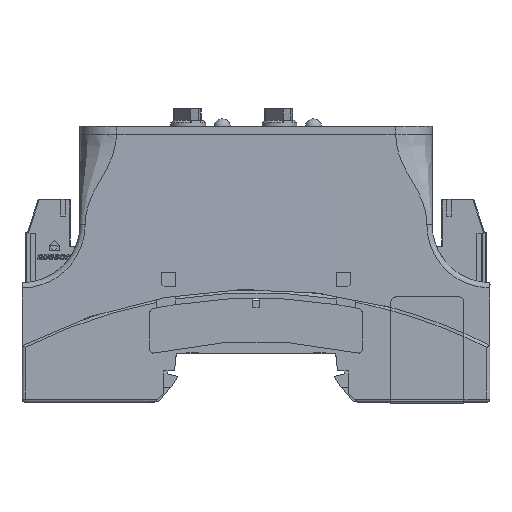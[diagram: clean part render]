
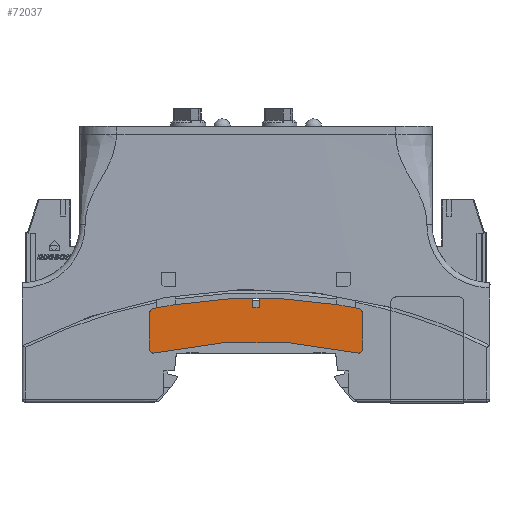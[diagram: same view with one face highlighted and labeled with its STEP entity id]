
A CAD part, left-side view. The second image highlights one B-rep face of the part: STEP entity #72037.
In plain terms, the highlighted planar face has unit normal (-1, 0, 0).
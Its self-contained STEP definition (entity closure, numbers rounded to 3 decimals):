
#942=CIRCLE('',#76028,90.);
#943=CIRCLE('',#76029,0.75);
#944=CIRCLE('',#76030,1.);
#945=CIRCLE('',#76031,98.35);
#946=CIRCLE('',#76032,98.35);
#947=CIRCLE('',#76033,98.35);
#948=CIRCLE('',#76034,98.35);
#949=CIRCLE('',#76035,98.35);
#950=CIRCLE('',#76036,98.35);
#951=CIRCLE('',#76037,1.);
#952=CIRCLE('',#76038,0.75);
#3902=FACE_OUTER_BOUND('',#7625,.T.);
#7625=EDGE_LOOP('',(#49933,#49934,#49935,#49936,#49937,#49938,#49939,#49940,
#49941,#49942,#49943,#49944,#49945,#49946,#49947,#49948));
#12965=LINE('',#107778,#21295);
#12966=LINE('',#107788,#21296);
#12967=LINE('',#107790,#21297);
#12968=LINE('',#107792,#21298);
#12969=LINE('',#107802,#21299);
#21295=VECTOR('',#84826,1.);
#21296=VECTOR('',#84835,1.);
#21297=VECTOR('',#84836,1.);
#21298=VECTOR('',#84837,1.);
#21299=VECTOR('',#84846,1.);
#29277=VERTEX_POINT('',#107772);
#29278=VERTEX_POINT('',#107773);
#29279=VERTEX_POINT('',#107775);
#29280=VERTEX_POINT('',#107777);
#29281=VERTEX_POINT('',#107779);
#29282=VERTEX_POINT('',#107781);
#29283=VERTEX_POINT('',#107783);
#29284=VERTEX_POINT('',#107785);
#29285=VERTEX_POINT('',#107787);
#29286=VERTEX_POINT('',#107789);
#29287=VERTEX_POINT('',#107791);
#29288=VERTEX_POINT('',#107793);
#29289=VERTEX_POINT('',#107795);
#29290=VERTEX_POINT('',#107797);
#29291=VERTEX_POINT('',#107799);
#29292=VERTEX_POINT('',#107801);
#37031=EDGE_CURVE('',#29277,#29278,#942,.T.);
#37032=EDGE_CURVE('',#29278,#29279,#943,.T.);
#37033=EDGE_CURVE('',#29279,#29280,#12965,.T.);
#37034=EDGE_CURVE('',#29280,#29281,#944,.T.);
#37035=EDGE_CURVE('',#29281,#29282,#945,.T.);
#37036=EDGE_CURVE('',#29283,#29282,#946,.T.);
#37037=EDGE_CURVE('',#29283,#29284,#947,.T.);
#37038=EDGE_CURVE('',#29284,#29285,#12966,.T.);
#37039=EDGE_CURVE('',#29285,#29286,#12967,.T.);
#37040=EDGE_CURVE('',#29286,#29287,#12968,.T.);
#37041=EDGE_CURVE('',#29287,#29288,#948,.T.);
#37042=EDGE_CURVE('',#29289,#29288,#949,.T.);
#37043=EDGE_CURVE('',#29289,#29290,#950,.T.);
#37044=EDGE_CURVE('',#29290,#29291,#951,.T.);
#37045=EDGE_CURVE('',#29291,#29292,#12969,.T.);
#37046=EDGE_CURVE('',#29292,#29277,#952,.T.);
#49933=ORIENTED_EDGE('',*,*,#37031,.T.);
#49934=ORIENTED_EDGE('',*,*,#37032,.T.);
#49935=ORIENTED_EDGE('',*,*,#37033,.T.);
#49936=ORIENTED_EDGE('',*,*,#37034,.T.);
#49937=ORIENTED_EDGE('',*,*,#37035,.T.);
#49938=ORIENTED_EDGE('',*,*,#37036,.F.);
#49939=ORIENTED_EDGE('',*,*,#37037,.T.);
#49940=ORIENTED_EDGE('',*,*,#37038,.T.);
#49941=ORIENTED_EDGE('',*,*,#37039,.T.);
#49942=ORIENTED_EDGE('',*,*,#37040,.T.);
#49943=ORIENTED_EDGE('',*,*,#37041,.T.);
#49944=ORIENTED_EDGE('',*,*,#37042,.F.);
#49945=ORIENTED_EDGE('',*,*,#37043,.T.);
#49946=ORIENTED_EDGE('',*,*,#37044,.T.);
#49947=ORIENTED_EDGE('',*,*,#37045,.T.);
#49948=ORIENTED_EDGE('',*,*,#37046,.T.);
#65303=PLANE('',#76027);
#72037=ADVANCED_FACE('',(#3902),#65303,.T.);
#76027=AXIS2_PLACEMENT_3D('',#107771,#84820,#84821);
#76028=AXIS2_PLACEMENT_3D('',#107774,#84822,#84823);
#76029=AXIS2_PLACEMENT_3D('',#107776,#84824,#84825);
#76030=AXIS2_PLACEMENT_3D('',#107780,#84827,#84828);
#76031=AXIS2_PLACEMENT_3D('',#107782,#84829,#84830);
#76032=AXIS2_PLACEMENT_3D('',#107784,#84831,#84832);
#76033=AXIS2_PLACEMENT_3D('',#107786,#84833,#84834);
#76034=AXIS2_PLACEMENT_3D('',#107794,#84838,#84839);
#76035=AXIS2_PLACEMENT_3D('',#107796,#84840,#84841);
#76036=AXIS2_PLACEMENT_3D('',#107798,#84842,#84843);
#76037=AXIS2_PLACEMENT_3D('',#107800,#84844,#84845);
#76038=AXIS2_PLACEMENT_3D('',#107803,#84847,#84848);
#84820=DIRECTION('center_axis',(-1.,0.,0.));
#84821=DIRECTION('ref_axis',(0.,0.,
1.));
#84822=DIRECTION('center_axis',(1.,0.,0.));
#84823=DIRECTION('ref_axis',(0.,0.,
-1.));
#84824=DIRECTION('center_axis',(-1.,0.,0.));
#84825=DIRECTION('ref_axis',(0.,0.,
1.));
#84826=DIRECTION('',(0.,0.,1.));
#84827=DIRECTION('center_axis',(-1.,0.,0.));
#84828=DIRECTION('ref_axis',(0.,0.,
1.));
#84829=DIRECTION('center_axis',(-1.,0.,0.));
#84830=DIRECTION('ref_axis',(0.,0.,
-1.));
#84831=DIRECTION('center_axis',(1.,0.,0.));
#84832=DIRECTION('ref_axis',(0.,0.,
1.));
#84833=DIRECTION('center_axis',(-1.,0.,0.));
#84834=DIRECTION('ref_axis',(0.,0.,
-1.));
#84835=DIRECTION('',(0.,0.,-1.));
#84836=DIRECTION('',(0.,1.,0.));
#84837=DIRECTION('',(0.,0.,1.));
#84838=DIRECTION('center_axis',(-1.,0.,0.));
#84839=DIRECTION('ref_axis',(0.,0.,
-1.));
#84840=DIRECTION('center_axis',(1.,0.,0.));
#84841=DIRECTION('ref_axis',(0.,0.,
1.));
#84842=DIRECTION('center_axis',(-1.,0.,0.));
#84843=DIRECTION('ref_axis',(0.,0.,
-1.));
#84844=DIRECTION('center_axis',(-1.,0.,0.));
#84845=DIRECTION('ref_axis',(0.,0.,
1.));
#84846=DIRECTION('',(0.,0.,-1.));
#84847=DIRECTION('center_axis',(-1.,0.,0.));
#84848=DIRECTION('ref_axis',(0.,0.,
1.));
#107771=CARTESIAN_POINT('Origin',(-0.95,43.2,-96.539));
#107772=CARTESIAN_POINT('',(-0.95,62.735,-8.685));
#107773=CARTESIAN_POINT('',(-0.95,23.665,-8.685));
#107774=CARTESIAN_POINT('Origin',(-0.95,43.2,-96.539));
#107775=CARTESIAN_POINT('',(-0.95,22.752,-7.953));
#107776=CARTESIAN_POINT('Origin',(-0.95,23.502,-7.953));
#107777=CARTESIAN_POINT('',(-0.95,22.752,-1.152));
#107778=CARTESIAN_POINT('',(-0.95,22.752,-0.338));
#107779=CARTESIAN_POINT('',(-0.95,23.553,-0.172));
#107780=CARTESIAN_POINT('Origin',(-0.95,23.752,-1.152));
#107781=CARTESIAN_POINT('',(-0.95,24.152,-0.051));
#107782=CARTESIAN_POINT('Origin',(-0.95,43.2,-96.539));
#107783=CARTESIAN_POINT('',(-0.95,27.7,0.582));
#107784=CARTESIAN_POINT('Origin',(-0.95,43.2,-96.539));
#107785=CARTESIAN_POINT('',(-0.95,42.6,1.809));
#107786=CARTESIAN_POINT('Origin',(-0.95,43.2,-96.539));
#107787=CARTESIAN_POINT('',(-0.95,42.6,0.061));
#107788=CARTESIAN_POINT('',(-0.95,42.6,-96.539));
#107789=CARTESIAN_POINT('',(-0.95,43.8,0.061));
#107790=CARTESIAN_POINT('',(-0.95,43.2,0.061));
#107791=CARTESIAN_POINT('',(-0.95,43.8,1.809));
#107792=CARTESIAN_POINT('',(-0.95,43.8,-96.539));
#107793=CARTESIAN_POINT('',(-0.95,58.7,0.582));
#107794=CARTESIAN_POINT('Origin',(-0.95,43.2,-96.539));
#107795=CARTESIAN_POINT('',(-0.95,62.248,-0.051));
#107796=CARTESIAN_POINT('Origin',(-0.95,43.2,-96.539));
#107797=CARTESIAN_POINT('',(-0.95,62.847,-0.172));
#107798=CARTESIAN_POINT('Origin',(-0.95,43.2,-96.539));
#107799=CARTESIAN_POINT('',(-0.95,63.648,-1.152));
#107800=CARTESIAN_POINT('Origin',(-0.95,62.648,-1.152));
#107801=CARTESIAN_POINT('',(-0.95,63.648,-7.953));
#107802=CARTESIAN_POINT('',(-0.95,63.648,-0.338));
#107803=CARTESIAN_POINT('Origin',(-0.95,62.898,-7.953));
